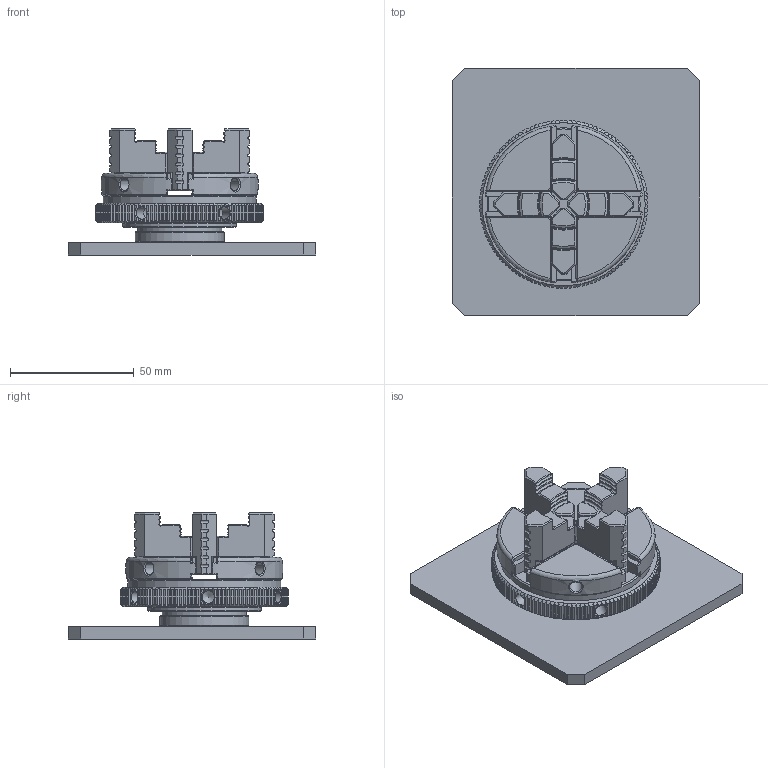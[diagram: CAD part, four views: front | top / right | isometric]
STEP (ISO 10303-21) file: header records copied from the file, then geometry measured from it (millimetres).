
FILE_DESCRIPTION(/* description */ ('STEP AP242 Edition 2','CAx-IF Rec.Pracs.---Representation and Presentation of Product Manufacturing Information (PMI)---4.0---2014-10-13','CAx-IF Rec.Pracs.---3D Tessellated Geometry---0.4---2014-09-14','2;1','CAx-IF Rec.Pracs.---User Defined Attributes---1.5---2016-08-15'),/* implementation_level */ '2;1');
FILE_NAME(/* name */ 'K02-63 4-Jaw Chuck parts',/* time_stamp */ '2026-05-30T11:43:44Z',/* author */ (''),/* organization */ (''),/* preprocessor_version */ 'ST-DEVELOPER v20',/* originating_system */ 'ONSHAPE BY PTC INC, 1.215',/* authorisation */ ' ');
FILE_SCHEMA (('AP242_MANAGED_MODEL_BASED_3D_ENGINEERING_MIM_LF { 1 0 10303 442 3 1 4 }'));
Length unit declared in the file: metre
Products named in the file (9): fixture plate; clip; nut; Body; jaw
Bounding box: 100 x 100 x 51 mm (x, y, z)
Volume: 130423.9 mm3; surface area: 54907.9 mm2
Topology: 9 solids, 9 shells, 1096 faces, 3152 edges, 2067 vertices
Faces by surface type: plane 713, cylinder 190, cone 109, torus 64, bspline 20
Full cylindrical faces by diameter (mm): 2.5 x2, 5 x10, 13 x1, 14 x1, 15 x1, 34 x1, 36 x4, 46 x1, 62 x1
Entity records: 45752 total; most frequent: CARTESIAN_POINT 18628, ORIENTED_EDGE 6152, DIRECTION 4932, EDGE_CURVE 3076, VERTEX_POINT 2052, AXIS2_PLACEMENT_3D 1783, LINE 1366, VECTOR 1366
